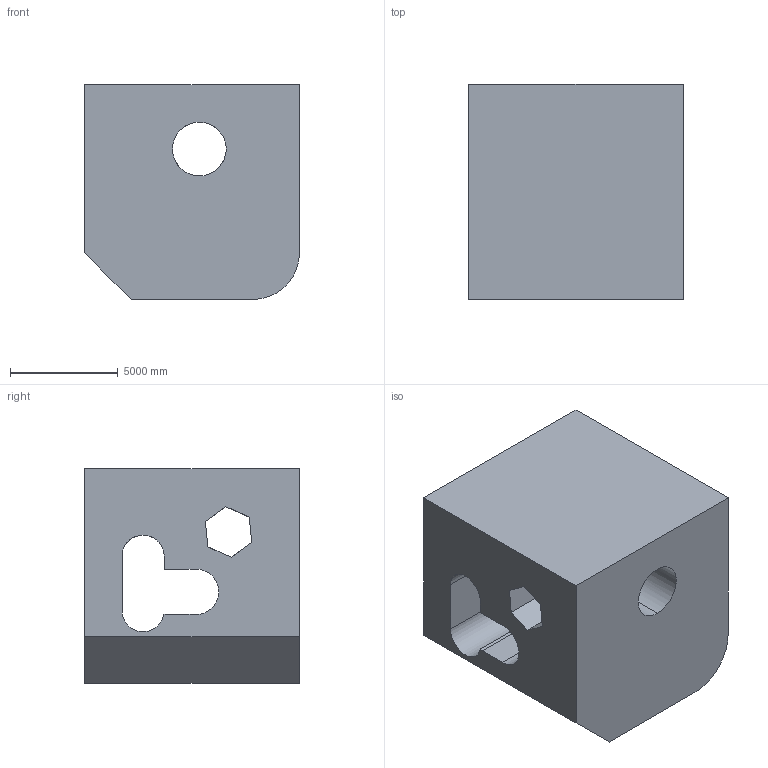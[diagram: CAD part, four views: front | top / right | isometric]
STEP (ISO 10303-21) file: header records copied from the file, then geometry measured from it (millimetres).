
FILE_DESCRIPTION (( 'STEP AP203' ), '1' );
FILE_NAME ('571.STEP', '2022-07-29T11:52:43', ( 'user' ), ( '' ), 'SwSTEP 2.0', 'SolidWorks 2021', '' );
FILE_SCHEMA (( 'CONFIG_CONTROL_DESIGN' ));
Length unit declared in the file: centimetre
Products named in the file (1): 571
Bounding box: 10000 x 10000 x 10000 mm (x, y, z)
Volume: 763716680880.6 mm3; surface area: 796790330.2 mm2
Topology: 1 solids, 1 shells, 34 faces, 102 edges, 68 vertices
Faces by surface type: plane 23, cylinder 11
Entity records: 1545 total; most frequent: CARTESIAN_POINT 549, ORIENTED_EDGE 204, DIRECTION 178, EDGE_CURVE 102, VERTEX_POINT 68, LINE 64, VECTOR 64, AXIS2_PLACEMENT_3D 57
